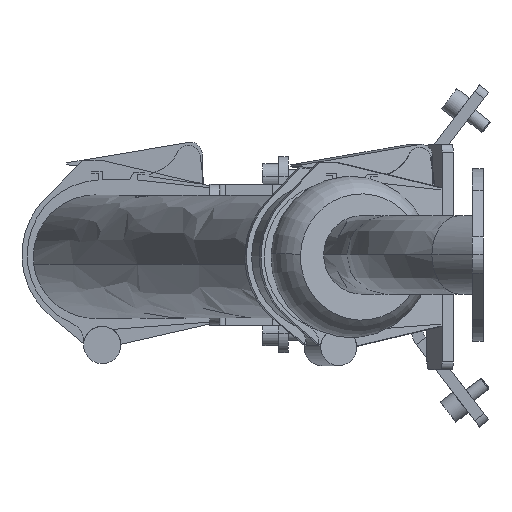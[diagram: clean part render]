
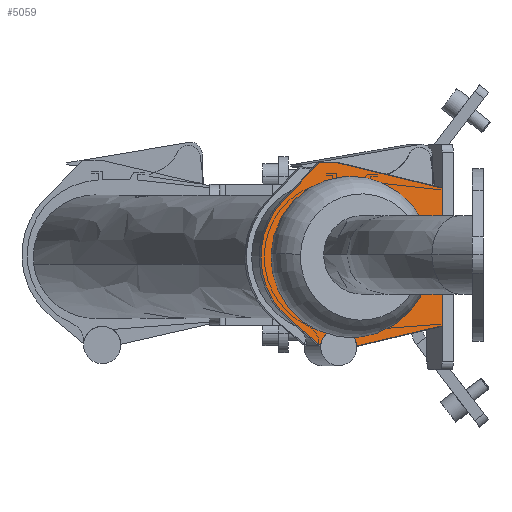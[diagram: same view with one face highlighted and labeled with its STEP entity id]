
A CAD part, left-side view. The second image highlights one B-rep face of the part: STEP entity #5059.
In plain terms, the highlighted planar face has unit normal (-0.966, -0.259, 0).
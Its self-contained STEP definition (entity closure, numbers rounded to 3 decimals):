
#24 = DIRECTION ( 'NONE',  ( 0., 0., -1. ) ) ;
#330 = AXIS2_PLACEMENT_3D ( 'NONE', #7432, #5879, #12434 ) ;
#454 = FACE_OUTER_BOUND ( 'NONE', #1936, .T. ) ;
#572 = AXIS2_PLACEMENT_3D ( 'NONE', #14970, #1870, #7116 ) ;
#583 = CARTESIAN_POINT ( 'NONE',  ( 1093.729, 170.036, 2197.129 ) ) ;
#1130 = VECTOR ( 'NONE', #6794, 1000. ) ;
#1294 = ORIENTED_EDGE ( 'NONE', *, *, #11287, .T. ) ;
#1479 = EDGE_CURVE ( 'NONE', #2056, #8250, #14621, .T. ) ;
#1480 = EDGE_CURVE ( 'NONE', #12768, #11180, #7166, .T. ) ;
#1603 = CARTESIAN_POINT ( 'NONE',  ( 1089.574, 185.556, 2117.283 ) ) ;
#1870 = DIRECTION ( 'NONE',  ( -0.966, -0.259, 0. ) ) ;
#1936 = EDGE_LOOP ( 'NONE', ( #16905, #4681, #16057, #2058, #5999, #3821, #10314, #8029, #9811 ) ) ;
#2056 = VERTEX_POINT ( 'NONE', #6911 ) ;
#2058 = ORIENTED_EDGE ( 'NONE', *, *, #4021, .T. ) ;
#2166 = VECTOR ( 'NONE', #3448, 1000. ) ;
#2317 = EDGE_LOOP ( 'NONE', ( #11868, #1294 ) ) ;
#2362 = CARTESIAN_POINT ( 'NONE',  ( 1088.772, 188.538, 2177.756 ) ) ;
#2495 = VECTOR ( 'NONE', #10650, 1000. ) ;
#2748 = EDGE_CURVE ( 'NONE', #13466, #15151, #13686, .T. ) ;
#2936 = FACE_BOUND ( 'NONE', #2317, .T. ) ;
#3107 = LINE ( 'NONE', #9241, #9176 ) ;
#3139 = CARTESIAN_POINT ( 'NONE',  ( 1096.319, 160.376, 2148.93 ) ) ;
#3448 = DIRECTION ( 'NONE',  ( -0.2, 0.746, 0.636 ) ) ;
#3534 = CARTESIAN_POINT ( 'NONE',  ( 1089.574, 185.556, 2117.283 ) ) ;
#3728 = AXIS2_PLACEMENT_3D ( 'NONE', #6736, #9388, #24 ) ;
#3793 = DIRECTION ( 'NONE',  ( 0., 0., 1. ) ) ;
#3821 = ORIENTED_EDGE ( 'NONE', *, *, #7713, .T. ) ;
#3918 = VERTEX_POINT ( 'NONE', #10641 ) ;
#4021 = EDGE_CURVE ( 'NONE', #12768, #3918, #10488, .T. ) ;
#4681 = ORIENTED_EDGE ( 'NONE', *, *, #10138, .F. ) ;
#4926 = CARTESIAN_POINT ( 'NONE',  ( 1106.999, 120.53, 2087.549 ) ) ;
#4976 = CARTESIAN_POINT ( 'NONE',  ( 1088.772, 188.538, 2177.756 ) ) ;
#5059 = ADVANCED_FACE ( 'NONE', ( #2936, #454 ), #12101, .F. ) ;
#5879 = DIRECTION ( 'NONE',  ( 0.966, 0.259, 0. ) ) ;
#5999 = ORIENTED_EDGE ( 'NONE', *, *, #14634, .T. ) ;
#6215 = CARTESIAN_POINT ( 'NONE',  ( 1110.553, 107.25, 2184.23 ) ) ;
#6248 = AXIS2_PLACEMENT_3D ( 'NONE', #3139, #12383, #11079 ) ;
#6251 = VERTEX_POINT ( 'NONE', #2362 ) ;
#6276 = CARTESIAN_POINT ( 'NONE',  ( 1093.729, 170.036, 2197.129 ) ) ;
#6506 = CARTESIAN_POINT ( 'NONE',  ( 1099.009, 150.344, 2103.443 ) ) ;
#6736 = CARTESIAN_POINT ( 'NONE',  ( 1096.321, 160.376, 2102.93 ) ) ;
#6794 = DIRECTION ( 'NONE',  ( -0.259, 0.966, 0. ) ) ;
#6911 = CARTESIAN_POINT ( 'NONE',  ( 1096.317, 160.376, 2197.13 ) ) ;
#7116 = DIRECTION ( 'NONE',  ( 0., 0., -1. ) ) ;
#7166 = CIRCLE ( 'NONE', #572, 9.5 ) ;
#7301 = CARTESIAN_POINT ( 'NONE',  ( 1086.238, 197.989, 2203.371 ) ) ;
#7432 = CARTESIAN_POINT ( 'NONE',  ( 1096.319, 160.376, 2148.93 ) ) ;
#7522 = CARTESIAN_POINT ( 'NONE',  ( 1104.689, 129.139, 2149.916 ) ) ;
#7713 = EDGE_CURVE ( 'NONE', #13868, #2056, #3107, .T. ) ;
#7957 = CARTESIAN_POINT ( 'NONE',  ( 1098.779, 151.205, 2103.239 ) ) ;
#8029 = ORIENTED_EDGE ( 'NONE', *, *, #10373, .T. ) ;
#8250 = VERTEX_POINT ( 'NONE', #6276 ) ;
#9176 = VECTOR ( 'NONE', #13521, 1000. ) ;
#9241 = CARTESIAN_POINT ( 'NONE',  ( 1096.317, 160.376, 2197.13 ) ) ;
#9388 = DIRECTION ( 'NONE',  ( -0.966, -0.259, 0. ) ) ;
#9811 = ORIENTED_EDGE ( 'NONE', *, *, #12644, .T. ) ;
#9917 = CARTESIAN_POINT ( 'NONE',  ( 1104.689, 129.139, 2149.916 ) ) ;
#10039 = CIRCLE ( 'NONE', #6248, 41. ) ;
#10127 = CARTESIAN_POINT ( 'NONE',  ( 1090.857, 180.772, 2078.637 ) ) ;
#10138 = EDGE_CURVE ( 'NONE', #11180, #11896, #10542, .T. ) ;
#10185 = DIRECTION ( 'NONE',  ( -0.182, 0.679, -0.711 ) ) ;
#10314 = ORIENTED_EDGE ( 'NONE', *, *, #1479, .T. ) ;
#10373 = EDGE_CURVE ( 'NONE', #8250, #6251, #11446, .T. ) ;
#10488 = LINE ( 'NONE', #6506, #2495 ) ;
#10542 = CIRCLE ( 'NONE', #3728, 9.5 ) ;
#10634 = CARTESIAN_POINT ( 'NONE',  ( 1093.869, 169.529, 2103.616 ) ) ;
#10641 = CARTESIAN_POINT ( 'NONE',  ( 1110.556, 107.25, 2113.63 ) ) ;
#10650 = DIRECTION ( 'NONE',  ( 0.252, -0.942, 0.223 ) ) ;
#11079 = DIRECTION ( 'NONE',  ( 0., 0., -1. ) ) ;
#11164 = VECTOR ( 'NONE', #3793, 1000. ) ;
#11180 = VERTEX_POINT ( 'NONE', #11865 ) ;
#11287 = EDGE_CURVE ( 'NONE', #15151, #13466, #15977, .T. ) ;
#11303 = LINE ( 'NONE', #3534, #2166 ) ;
#11446 = LINE ( 'NONE', #4976, #14398 ) ;
#11865 = CARTESIAN_POINT ( 'NONE',  ( 1096.321, 160.376, 2112.43 ) ) ;
#11868 = ORIENTED_EDGE ( 'NONE', *, *, #2748, .T. ) ;
#11896 = VERTEX_POINT ( 'NONE', #10634 ) ;
#12101 = PLANE ( 'NONE',  #330 ) ;
#12383 = DIRECTION ( 'NONE',  ( -0.966, -0.259, 0. ) ) ;
#12395 = CARTESIAN_POINT ( 'NONE',  ( 1102.379, 137.748, 2212.283 ) ) ;
#12434 = DIRECTION ( 'NONE',  ( 0., 0., -1. ) ) ;
#12538 = VERTEX_POINT ( 'NONE', #1603 ) ;
#12644 = EDGE_CURVE ( 'NONE', #6251, #12538, #10039, .T. ) ;
#12768 = VERTEX_POINT ( 'NONE', #7957 ) ;
#13005 = LINE ( 'NONE', #6215, #11164 ) ;
#13466 = VERTEX_POINT ( 'NONE', #14768 ) ;
#13521 = DIRECTION ( 'NONE',  ( -0.252, 0.94, 0.228 ) ) ;
#13686 =( BOUNDED_CURVE ( )  B_SPLINE_CURVE ( 3, ( #7522, #4926, #10127, #15350 ),
 .UNSPECIFIED., .F., .F. ) 
 B_SPLINE_CURVE_WITH_KNOTS ( ( 4, 4 ),
 ( 5.072, 8.214 ),
 .UNSPECIFIED. ) 
 CURVE ( )  GEOMETRIC_REPRESENTATION_ITEM ( )  RATIONAL_B_SPLINE_CURVE ( ( 1., 0.333, 0.333, 1. ) ) 
 REPRESENTATION_ITEM ( '' )  );
#13752 = CARTESIAN_POINT ( 'NONE',  ( 1088.548, 189.381, 2141.004 ) ) ;
#13868 = VERTEX_POINT ( 'NONE', #15004 ) ;
#14239 = CARTESIAN_POINT ( 'NONE',  ( 1088.548, 189.381, 2141.004 ) ) ;
#14398 = VECTOR ( 'NONE', #10185, 1000. ) ;
#14542 = EDGE_CURVE ( 'NONE', #11896, #12538, #11303, .T. ) ;
#14621 = LINE ( 'NONE', #583, #1130 ) ;
#14634 = EDGE_CURVE ( 'NONE', #3918, #13868, #13005, .T. ) ;
#14768 = CARTESIAN_POINT ( 'NONE',  ( 1104.689, 129.139, 2149.916 ) ) ;
#14970 = CARTESIAN_POINT ( 'NONE',  ( 1096.321, 160.376, 2102.93 ) ) ;
#15004 = CARTESIAN_POINT ( 'NONE',  ( 1110.553, 107.25, 2184.23 ) ) ;
#15151 = VERTEX_POINT ( 'NONE', #14239 ) ;
#15350 = CARTESIAN_POINT ( 'NONE',  ( 1088.548, 189.381, 2141.004 ) ) ;
#15977 =( BOUNDED_CURVE ( )  B_SPLINE_CURVE ( 3, ( #13752, #7301, #12395, #9917 ),
 .UNSPECIFIED., .F., .T. ) 
 B_SPLINE_CURVE_WITH_KNOTS ( ( 4, 4 ),
 ( 1.931, 5.072 ),
 .UNSPECIFIED. ) 
 CURVE ( )  GEOMETRIC_REPRESENTATION_ITEM ( )  RATIONAL_B_SPLINE_CURVE ( ( 1., 0.333, 0.333, 1. ) ) 
 REPRESENTATION_ITEM ( '' )  );
#16057 = ORIENTED_EDGE ( 'NONE', *, *, #1480, .F. ) ;
#16905 = ORIENTED_EDGE ( 'NONE', *, *, #14542, .F. ) ;
